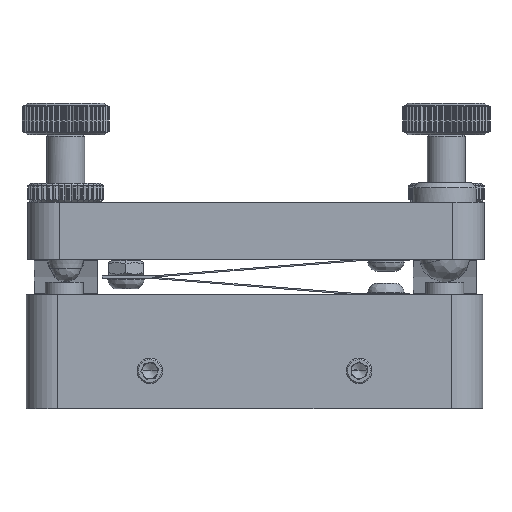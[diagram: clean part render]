
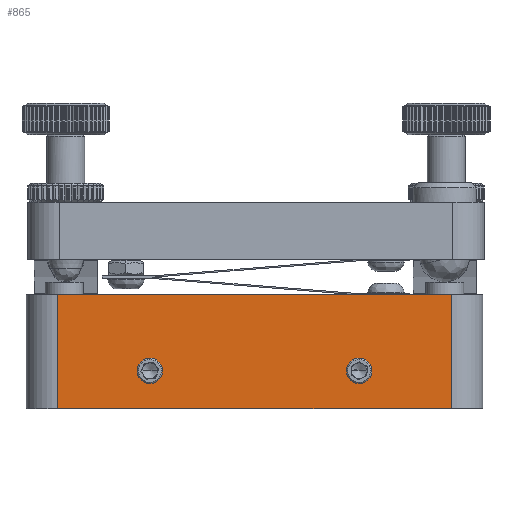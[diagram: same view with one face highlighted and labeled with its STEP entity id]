
A CAD part, front view. The second image highlights one B-rep face of the part: STEP entity #865.
In plain terms, the highlighted planar face has unit normal (0, -1, 0).
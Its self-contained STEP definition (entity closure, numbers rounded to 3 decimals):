
#116 = EDGE_CURVE ( 'NONE', #4197, #4045, #7653, .T. ) ;
#130 = EDGE_CURVE ( 'NONE', #4096, #4150, #7699, .T. ) ;
#252 = VERTEX_POINT ( 'NONE', #7818 ) ;
#257 = EDGE_CURVE ( 'NONE', #258, #252, #7878, .T. ) ;
#258 = VERTEX_POINT ( 'NONE', #7874 ) ;
#822 = VERTEX_POINT ( 'NONE', #8608 ) ;
#826 = EDGE_CURVE ( 'NONE', #252, #822, #8607, .T. ) ;
#865 = ADVANCED_FACE ( 'NONE', ( #8656, #8651, #8650 ), #8649, .T. ) ;
#866 = EDGE_LOOP ( 'NONE', ( #867, #869, #875, #879 ) ) ;
#867 = ORIENTED_EDGE ( 'NONE', *, *, #826, .T. ) ;
#869 = ORIENTED_EDGE ( 'NONE', *, *, #872, .T. ) ;
#872 = EDGE_CURVE ( 'NONE', #822, #873, #8644, .T. ) ;
#873 = VERTEX_POINT ( 'NONE', #8640 ) ;
#875 = ORIENTED_EDGE ( 'NONE', *, *, #877, .F. ) ;
#877 = EDGE_CURVE ( 'NONE', #258, #873, #8639, .T. ) ;
#879 = ORIENTED_EDGE ( 'NONE', *, *, #257, .T. ) ;
#881 = EDGE_LOOP ( 'NONE', ( #883, #885 ) ) ;
#883 = ORIENTED_EDGE ( 'NONE', *, *, #4149, .T. ) ;
#885 = ORIENTED_EDGE ( 'NONE', *, *, #130, .T. ) ;
#887 = EDGE_LOOP ( 'NONE', ( #889, #923 ) ) ;
#889 = ORIENTED_EDGE ( 'NONE', *, *, #4044, .T. ) ;
#923 = ORIENTED_EDGE ( 'NONE', *, *, #116, .T. ) ;
#4044 = EDGE_CURVE ( 'NONE', #4045, #4197, #15680, .T. ) ;
#4045 = VERTEX_POINT ( 'NONE', #15675 ) ;
#4096 = VERTEX_POINT ( 'NONE', #15789 ) ;
#4149 = EDGE_CURVE ( 'NONE', #4150, #4096, #15891, .T. ) ;
#4150 = VERTEX_POINT ( 'NONE', #15886 ) ;
#4197 = VERTEX_POINT ( 'NONE', #16026 ) ;
#7649 = DIRECTION ( 'NONE',  ( -1., 0., 0. ) ) ;
#7650 = DIRECTION ( 'NONE',  ( 0., 1., 0. ) ) ;
#7651 = CARTESIAN_POINT ( 'NONE',  ( 55.255, 0.01, -17.557 ) ) ;
#7652 = AXIS2_PLACEMENT_3D ( 'NONE', #7651, #7650, #7649 ) ;
#7653 = CIRCLE ( 'NONE', #7652, 2. ) ;
#7695 = DIRECTION ( 'NONE',  ( -1., 0., 0. ) ) ;
#7696 = DIRECTION ( 'NONE',  ( 0., 1., 0. ) ) ;
#7697 = CARTESIAN_POINT ( 'NONE',  ( 22.255, 0.01, -17.557 ) ) ;
#7698 = AXIS2_PLACEMENT_3D ( 'NONE', #7697, #7696, #7695 ) ;
#7699 = CIRCLE ( 'NONE', #7698, 2. ) ;
#7818 = CARTESIAN_POINT ( 'NONE',  ( 69.755, 0.01, -23.557 ) ) ;
#7874 = CARTESIAN_POINT ( 'NONE',  ( 7.755, 0.01, -23.557 ) ) ;
#7875 = DIRECTION ( 'NONE',  ( 1., 0., 0. ) ) ;
#7876 = VECTOR ( 'NONE', #7875, 1000. ) ;
#7877 = CARTESIAN_POINT ( 'NONE',  ( 2.755, 0.01, -23.557 ) ) ;
#7878 = LINE ( 'NONE', #7877, #7876 ) ;
#8604 = DIRECTION ( 'NONE',  ( 0., 0., 1. ) ) ;
#8605 = VECTOR ( 'NONE', #8604, 1000. ) ;
#8606 = CARTESIAN_POINT ( 'NONE',  ( 69.755, 0.01, -5.557 ) ) ;
#8607 = LINE ( 'NONE', #8606, #8605 ) ;
#8608 = CARTESIAN_POINT ( 'NONE',  ( 69.755, 0.01, -5.557 ) ) ;
#8636 = DIRECTION ( 'NONE',  ( 0., 0., 1. ) ) ;
#8637 = VECTOR ( 'NONE', #8636, 1000. ) ;
#8638 = CARTESIAN_POINT ( 'NONE',  ( 7.755, 0.01, -5.557 ) ) ;
#8639 = LINE ( 'NONE', #8638, #8637 ) ;
#8640 = CARTESIAN_POINT ( 'NONE',  ( 7.755, 0.01, -5.557 ) ) ;
#8641 = DIRECTION ( 'NONE',  ( -1., 0., 0. ) ) ;
#8642 = VECTOR ( 'NONE', #8641, 1000. ) ;
#8643 = CARTESIAN_POINT ( 'NONE',  ( 38.755, 0.01, -5.557 ) ) ;
#8644 = LINE ( 'NONE', #8643, #8642 ) ;
#8645 = DIRECTION ( 'NONE',  ( 1., 0., 0. ) ) ;
#8646 = DIRECTION ( 'NONE',  ( 0., -1., 0. ) ) ;
#8647 = CARTESIAN_POINT ( 'NONE',  ( 2.755, 0.01, -5.557 ) ) ;
#8648 = AXIS2_PLACEMENT_3D ( 'NONE', #8647, #8646, #8645 ) ;
#8649 = PLANE ( 'NONE',  #8648 ) ;
#8650 = FACE_BOUND ( 'NONE', #887, .T. ) ;
#8651 = FACE_BOUND ( 'NONE', #881, .T. ) ;
#8656 = FACE_OUTER_BOUND ( 'NONE', #866, .T. ) ;
#15675 = CARTESIAN_POINT ( 'NONE',  ( 53.255, 0.01, -17.557 ) ) ;
#15676 = DIRECTION ( 'NONE',  ( -1., 0., 0. ) ) ;
#15677 = DIRECTION ( 'NONE',  ( 0., 1., 0. ) ) ;
#15678 = CARTESIAN_POINT ( 'NONE',  ( 55.255, 0.01, -17.557 ) ) ;
#15679 = AXIS2_PLACEMENT_3D ( 'NONE', #15678, #15677, #15676 ) ;
#15680 = CIRCLE ( 'NONE', #15679, 2. ) ;
#15789 = CARTESIAN_POINT ( 'NONE',  ( 24.255, 0.01, -17.557 ) ) ;
#15886 = CARTESIAN_POINT ( 'NONE',  ( 20.255, 0.01, -17.557 ) ) ;
#15887 = DIRECTION ( 'NONE',  ( -1., 0., 0. ) ) ;
#15888 = DIRECTION ( 'NONE',  ( 0., 1., 0. ) ) ;
#15889 = CARTESIAN_POINT ( 'NONE',  ( 22.255, 0.01, -17.557 ) ) ;
#15890 = AXIS2_PLACEMENT_3D ( 'NONE', #15889, #15888, #15887 ) ;
#15891 = CIRCLE ( 'NONE', #15890, 2. ) ;
#16026 = CARTESIAN_POINT ( 'NONE',  ( 57.255, 0.01, -17.557 ) ) ;
